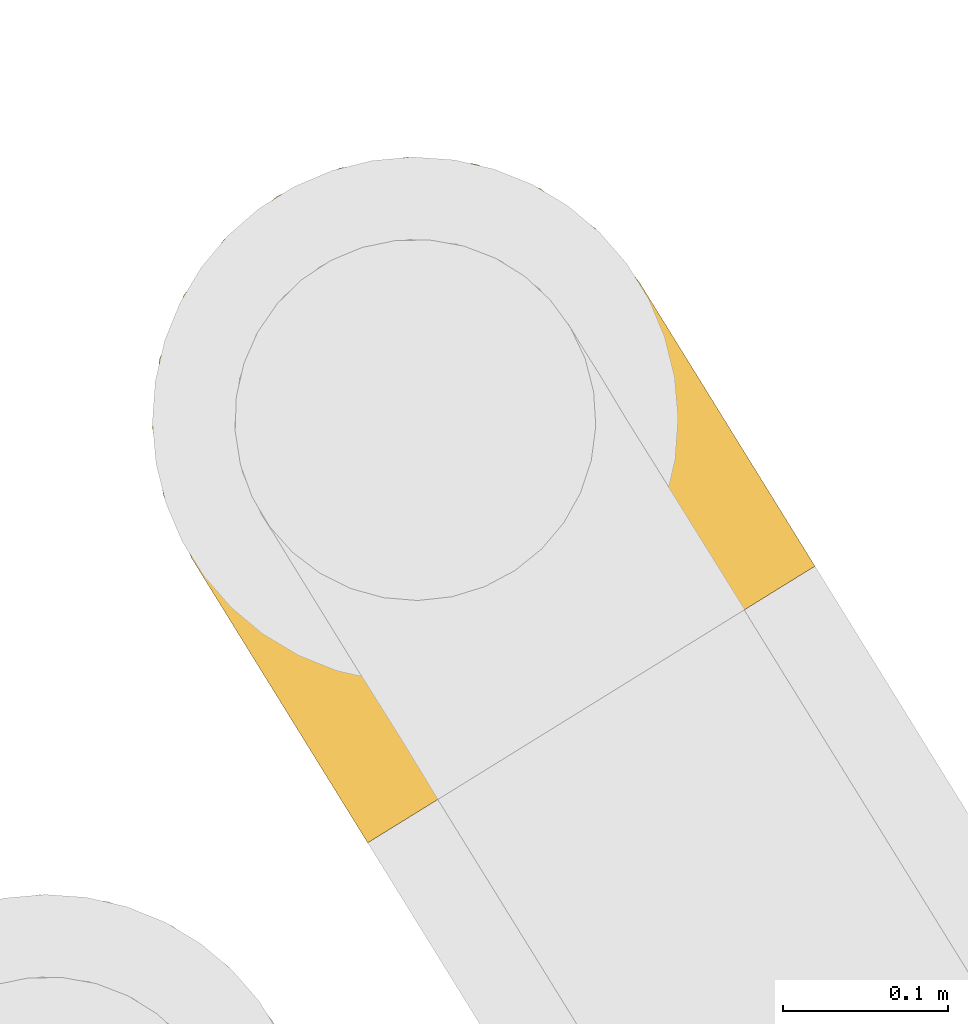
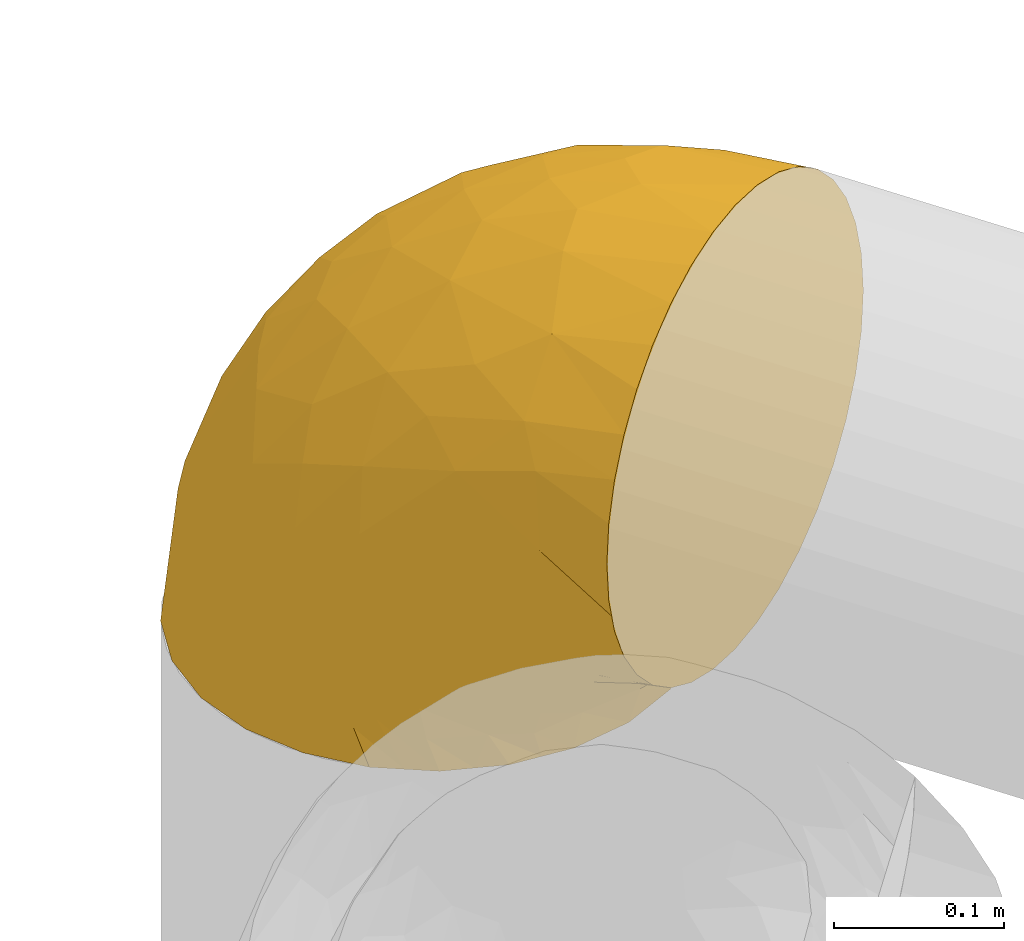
# One storey, part 39 of 91: 1 covering.
"""IFC2X3 building model written with IfcOpenShell, lengths in metres."""

from ifc_helpers import new_model, entity, si_unit, converted_unit, derived_unit, direction, frame, origin, place, context, subcontext, project, spatial, faceted_brep, element, save


model = new_model("IFC2X3")

# Units and contexts
model_context = context("Model", 3, precision=1e-05, world=origin(), true_north=direction((0.894925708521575, 0.446215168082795)))
context_of_model = context(None, 3, precision=1e-05, world=origin(), true_north=direction((0.894925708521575, 0.446215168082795)))
body_context = subcontext(model_context, "Body", "Model", "MODEL_VIEW")
ifc_project = project(units=[si_unit("LENGTHUNIT", "METRE"), si_unit("AREAUNIT", "SQUARE_METRE"), si_unit("VOLUMEUNIT", "CUBIC_METRE"), converted_unit("PLANEANGLEUNIT", "DEGREE", entity("IfcRatioMeasure", 0.0174532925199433), si_unit("PLANEANGLEUNIT", "RADIAN"), dimensions=[0, 0, 0, 0, 0, 0, 0]), si_unit("MASSUNIT", "GRAM", prefix="KILO"), si_unit("TIMEUNIT", "SECOND"), si_unit("FREQUENCYUNIT", "HERTZ"), si_unit("THERMODYNAMICTEMPERATUREUNIT", "DEGREE_CELSIUS"), derived_unit("THERMALTRANSMITTANCEUNIT", [(si_unit("MASSUNIT", "GRAM", prefix="KILO"), 1), (si_unit("THERMODYNAMICTEMPERATUREUNIT", "KELVIN"), -1), (si_unit("TIMEUNIT", "SECOND"), -3)]), derived_unit("VOLUMETRICFLOWRATEUNIT", [(si_unit("LENGTHUNIT", "METRE"), 3), (si_unit("TIMEUNIT", "SECOND"), -1)]), si_unit("ELECTRICCURRENTUNIT", "AMPERE"), si_unit("ELECTRICVOLTAGEUNIT", "VOLT"), si_unit("POWERUNIT", "WATT"), si_unit("FORCEUNIT", "NEWTON", prefix="KILO"), si_unit("ILLUMINANCEUNIT", "LUX"), si_unit("LUMINOUSFLUXUNIT", "LUMEN"), si_unit("LUMINOUSINTENSITYUNIT", "CANDELA"), si_unit("PRESSUREUNIT", "PASCAL")], contexts=[model_context, context_of_model])

# Site, building, storey
site_placement = place(None, frame((218.228324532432, 584.720189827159, 0.0), z_axis=(0.0, 0.0, 1.0), x_axis=(0.446215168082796, 0.894925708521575, 0.0)))
site = spatial("IfcSite", under=ifc_project, at=site_placement, Name="Default", CompositionType="ELEMENT")
building_placement = place(site_placement, origin())
building = spatial("IfcBuilding", under=site, at=building_placement, CompositionType="ELEMENT")
storey_placement = place(building_placement, origin())
storey = spatial("IfcBuildingStorey", under=building, at=storey_placement, Name="0 - Piano Terra", CompositionType="ELEMENT", Elevation=0.0)

# Covering
covering_placement = place(storey_placement, frame((-29.9963255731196, 6.51074202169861, 0.295404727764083)))
element("IfcCovering", 1, at=covering_placement, inside=storey, Name="Isolamento tubazione:Default", ObjectType="Isolamento tubazione:Default", PredefinedType="INSULATION", context=body_context, shape_type="Brep", body=[
    faceted_brep([(0.270854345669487, 0.00287081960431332, 0.232297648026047), (0.26473351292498, 0.00665990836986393, 0.259164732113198), (0.254738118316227, 0.0128475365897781, 0.284373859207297), (0.241175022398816, 0.0212437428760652, 0.307154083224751), (0.224456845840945, 0.0315930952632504, 0.326816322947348), (0.205084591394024, 0.0435854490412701, 0.342769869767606), (0.18364957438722, 0.056854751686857, 0.354524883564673), (0.160808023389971, 0.0709947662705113, 0.361722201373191), (0.137255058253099, 0.0855751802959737, 0.364145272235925), (0.113700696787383, 0.100156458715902, 0.361721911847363), (0.0908565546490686, 0.114298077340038, 0.354523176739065), (0.0694221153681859, 0.127567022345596, 0.342767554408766), (0.0500528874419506, 0.139557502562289, 0.32681594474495), (0.0333347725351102, 0.14990681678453, 0.307153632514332), (0.0197700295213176, 0.158304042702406, 0.284369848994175), (0.00977515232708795, 0.164491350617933, 0.259160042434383), (0.00365552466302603, 0.168279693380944, 0.232296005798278), (0.00159527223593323, 0.169555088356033, 0.204595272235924), (0.0024005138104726, 0.169056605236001, 0.193769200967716), (0.00365577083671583, 0.168279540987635, 0.176892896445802), (0.00671618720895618, 0.166384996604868, 0.163459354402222), (0.00977660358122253, 0.164490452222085, 0.150025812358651), (0.0197719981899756, 0.15830282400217, 0.124816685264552), (0.0333350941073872, 0.149906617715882, 0.102036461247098), (0.0500532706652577, 0.139557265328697, 0.0823742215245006), (0.0694255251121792, 0.127564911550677, 0.0664206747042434), (0.0908605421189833, 0.114295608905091, 0.0546656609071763), (0.113702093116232, 0.100155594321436, 0.0474683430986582), (0.137255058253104, 0.0855751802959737, 0.0450452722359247), (0.160809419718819, 0.0709939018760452, 0.0474686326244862), (0.183653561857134, 0.0568522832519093, 0.0546673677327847), (0.205088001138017, 0.0435833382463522, 0.0664229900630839), (0.224457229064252, 0.0315928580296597, 0.0823745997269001), (0.241175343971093, 0.0212435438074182, 0.102036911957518), (0.254740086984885, 0.0128463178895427, 0.124820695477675), (0.264734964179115, 0.00665900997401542, 0.150030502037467), (0.270854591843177, 0.00287066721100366, 0.176894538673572), (0.272109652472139, 0.00209372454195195, 0.193769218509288), (0.27291484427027, 0.0015952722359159, 0.204595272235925), (0.0887963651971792, 0.221635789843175, 0.0015952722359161), (0.0867133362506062, 0.242356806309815, 0.00159527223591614), (0.0846303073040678, 0.263077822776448, 0.00159527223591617), (0.0879812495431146, 0.283631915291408, 0.00159527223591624), (0.0913321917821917, 0.304186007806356, 0.00159527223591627), (0.099360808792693, 0.322000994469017, 0.00159527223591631), (0.103903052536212, 0.33207994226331, 0.00159527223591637), (0.108445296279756, 0.3421588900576, 0.00159527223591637), (0.134803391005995, 0.37440868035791, 0.00159527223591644), (0.168610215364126, 0.398737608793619, 0.00159527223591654), (0.207561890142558, 0.413487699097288, 0.00159527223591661), (0.24900392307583, 0.4176537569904, 0.00159527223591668), (0.290112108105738, 0.410951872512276, 0.00159527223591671), (0.328084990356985, 0.393838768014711, 0.00159527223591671), (0.360334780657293, 0.367480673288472, 0.00159527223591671), (0.384663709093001, 0.333673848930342, 0.00159527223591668), (0.39941379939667, 0.294722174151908, 0.00159527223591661), (0.403579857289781, 0.253280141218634, 0.00159527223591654), (0.396877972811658, 0.212171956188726, 0.00159527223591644), (0.379764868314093, 0.174199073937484, 0.00159527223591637), (0.372768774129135, 0.165639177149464, 0.00159527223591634), (0.3657726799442, 0.157079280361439, 0.00159527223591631), (0.353406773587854, 0.141949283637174, 0.00159527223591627), (0.336503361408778, 0.129784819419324, 0.00159527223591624), (0.319599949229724, 0.117620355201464, 0.00159527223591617), (0.300124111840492, 0.110245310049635, 0.00159527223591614), (0.280648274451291, 0.102870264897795, 0.0015952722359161), (0.239206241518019, 0.0987042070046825, 0.00159527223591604), (0.198098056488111, 0.105406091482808, 0.001595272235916), (0.160125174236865, 0.122519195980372, 0.001595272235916), (0.127875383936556, 0.148877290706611, 0.001595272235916), (0.103546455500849, 0.18268411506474, 0.00159527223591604), (0.0961714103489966, 0.202159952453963, 0.00159527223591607), (0.35357492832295, 0.358969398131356, 0.0900951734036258), (0.325185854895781, 0.38915555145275, 0.064551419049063), (0.316576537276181, 0.375248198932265, 0.125594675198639), (0.369829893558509, 0.185181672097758, 0.173037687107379), (0.357880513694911, 0.145533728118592, 0.16870319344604), (0.387234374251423, 0.202289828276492, 0.108066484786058), (0.356453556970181, 0.136542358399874, 0.128163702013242), (0.362818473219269, 0.146824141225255, 0.108918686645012), (0.369183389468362, 0.157105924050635, 0.0896736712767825), (0.361981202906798, 0.319892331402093, 0.142688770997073), (0.340579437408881, 0.342644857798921, 0.150576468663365), (0.322765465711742, 0.316852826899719, 0.206213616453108), (0.318761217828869, 0.180919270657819, 0.273081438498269), (0.353107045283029, 0.21008567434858, 0.221076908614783), (0.340388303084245, 0.241651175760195, 0.234774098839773), (0.374509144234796, 0.342119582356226, 0.0599626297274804), (0.399887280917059, 0.277257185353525, 0.0515208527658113), (0.342748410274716, 0.13600027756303, 0.215857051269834), (0.302518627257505, 0.352539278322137, 0.182870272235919), (0.283439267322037, 0.321718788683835, 0.234637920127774), (0.29478664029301, 0.28755889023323, 0.256252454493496), (0.259918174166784, 0.2837231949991, 0.279324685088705), (0.296691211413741, 0.0400032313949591, 0.199505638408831), (0.318972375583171, 0.0826821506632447, 0.218772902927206), (0.389178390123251, 0.27124819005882, 0.11560025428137), (0.385915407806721, 0.230504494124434, 0.136729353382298), (0.399024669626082, 0.236460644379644, 0.0646646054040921), (0.232685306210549, 0.122790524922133, 0.342089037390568), (0.247630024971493, 0.192533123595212, 0.327172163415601), (0.209497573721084, 0.146174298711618, 0.350066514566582), (0.377085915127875, 0.169871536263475, 0.0467670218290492), (0.378438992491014, 0.17205727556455, 0.0239518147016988), (0.379101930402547, 0.173128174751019, 0.0127735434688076), (0.386337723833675, 0.314955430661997, 0.073715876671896), (0.202522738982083, 0.191007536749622, 0.342280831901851), (0.232670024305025, 0.239706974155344, 0.315572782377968), (0.373134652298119, 0.163488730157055, 0.0682203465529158), (0.290826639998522, 0.0679042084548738, 0.273493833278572), (0.31773910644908, 0.266140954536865, 0.250122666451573), (0.282497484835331, 0.238045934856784, 0.292585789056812), (0.305304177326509, 0.219935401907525, 0.281138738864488), (0.297622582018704, 0.114356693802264, 0.288377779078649), (0.262569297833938, 0.0844076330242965, 0.316159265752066), (0.331650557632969, 0.15572516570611, 0.25144713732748), (0.282197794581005, 0.170285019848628, 0.309557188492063), (0.170392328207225, 0.139104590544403, 0.358637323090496), (0.2787985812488, 0.0110997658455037, 0.203335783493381), (0.284682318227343, 0.0206042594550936, 0.202076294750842), (0.31927533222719, 0.0764852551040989, 0.184491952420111), (0.329405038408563, 0.092848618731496, 0.172399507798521), (0.339534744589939, 0.109211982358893, 0.16030706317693), (0.307983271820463, 0.0582442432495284, 0.191998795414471), (0.347994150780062, 0.122877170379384, 0.144235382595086), (0.348257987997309, 0.287034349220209, 0.199279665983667), (0.368646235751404, 0.257189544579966, 0.180304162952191), (0.375478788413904, 0.292048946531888, 0.141814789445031), (0.178441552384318, 0.0901296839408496, 0.0408292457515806), (0.360405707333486, 0.148356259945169, 0.0284627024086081), (0.269853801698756, 0.0314281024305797, 0.128182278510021), (0.350801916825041, 0.138048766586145, 0.0376598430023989), (0.274380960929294, 0.0615737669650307, 0.0979970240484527), (0.240703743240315, 0.0492642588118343, 0.0829606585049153), (0.255268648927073, 0.0644117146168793, 0.0787272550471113), (0.338786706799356, 0.117706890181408, 0.0951853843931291), (0.325937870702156, 0.10145236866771, 0.107494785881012), (0.311471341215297, 0.0981749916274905, 0.080495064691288), (0.29082799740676, 0.0417220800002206, 0.155605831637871), (0.237534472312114, 0.0926506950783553, 0.0312638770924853), (0.27051864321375, 0.0980943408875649, 0.0260038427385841), (0.267778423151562, 0.090655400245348, 0.0467246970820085), (0.275999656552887, 0.0516571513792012, 0.112391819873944), (0.307260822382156, 0.0764596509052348, 0.123613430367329), (0.306981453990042, 0.0659844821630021, 0.148232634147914), (0.252230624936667, 0.0770040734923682, 0.0620352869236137), (0.284669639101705, 0.0746266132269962, 0.0904636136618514), (0.223031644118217, 0.0625228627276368, 0.0646338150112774), (0.2954934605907, 0.0981276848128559, 0.0541637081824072), (0.195485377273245, 0.0994173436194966, 0.0263992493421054), (0.209627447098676, 0.0817906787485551, 0.0462280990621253), (0.328235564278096, 0.0969037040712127, 0.133116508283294), (0.322820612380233, 0.0862900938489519, 0.148702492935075), (0.190355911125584, 0.07266699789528, 0.0508973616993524), (0.287572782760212, 0.0315729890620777, 0.168975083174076), (0.284888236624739, 0.0864246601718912, 0.0698164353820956), (0.306113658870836, 0.110129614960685, 0.0207775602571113), (0.148690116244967, 0.104047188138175, 0.0392240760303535), (0.157061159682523, 0.117569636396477, 0.0233202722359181), (0.303069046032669, 0.106432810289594, 0.0360215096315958), (0.353307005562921, 0.136995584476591, 0.0724405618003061), (0.340445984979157, 0.123158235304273, 0.076257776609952), (0.321073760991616, 0.108795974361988, 0.0687110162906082), (0.332214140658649, 0.120914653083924, 0.0504309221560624), (0.312062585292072, 0.0868495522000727, 0.110544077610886), (0.327152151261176, 0.120731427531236, 0.026189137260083), (0.0588774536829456, 0.173619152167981, 0.0854589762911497), (0.0610592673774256, 0.211286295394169, 0.0913301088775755), (0.0482600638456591, 0.212710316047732, 0.117856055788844), (0.122790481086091, 0.12128365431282, 0.0421616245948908), (0.123151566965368, 0.141874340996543, 0.0292129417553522), (0.0909365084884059, 0.206869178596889, 0.0219615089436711), (0.0842790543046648, 0.234404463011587, 0.0268437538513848), (0.0665269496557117, 0.251116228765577, 0.0982324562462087), (0.0727408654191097, 0.279359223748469, 0.116013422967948), (0.0755782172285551, 0.267083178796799, 0.0770762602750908), (0.0532903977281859, 0.245887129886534, 0.142677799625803), (0.0595675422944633, 0.237551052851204, 0.108617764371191), (0.0580854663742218, 0.260808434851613, 0.17239950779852), (0.0439734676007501, 0.231600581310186, 0.154525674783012), (0.105766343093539, 0.337831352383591, 0.0467670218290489), (0.107119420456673, 0.340017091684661, 0.0239518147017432), (0.107782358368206, 0.341087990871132, 0.0127735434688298), (0.0870938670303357, 0.203363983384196, 0.0387154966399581), (0.0808460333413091, 0.228785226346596, 0.044998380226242), (0.0939461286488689, 0.313307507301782, 0.0284627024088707), (0.102030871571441, 0.124702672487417, 0.0511194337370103), (0.0784866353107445, 0.148396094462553, 0.0644557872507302), (0.101768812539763, 0.144082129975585, 0.0476548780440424), (0.0820042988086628, 0.275196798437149, 0.0492274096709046), (0.0840582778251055, 0.270829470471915, 0.0255805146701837), (0.0715343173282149, 0.177559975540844, 0.0713370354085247), (0.101815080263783, 0.331448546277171, 0.0682203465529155), (0.0747987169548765, 0.221407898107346, 0.0636793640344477), (0.0890024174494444, 0.300115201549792, 0.0376598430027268), (0.00747900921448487, 0.179059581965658, 0.203335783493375), (0.0133627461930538, 0.188564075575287, 0.202076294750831), (0.0253716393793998, 0.207963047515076, 0.19950563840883), (0.0428269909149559, 0.177134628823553, 0.106279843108), (0.063009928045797, 0.261567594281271, 0.128674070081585), (0.0766745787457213, 0.2908369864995, 0.144235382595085), (0.0338653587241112, 0.198793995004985, 0.137474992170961), (0.099853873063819, 0.177990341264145, 0.0296081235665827), (0.0479557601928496, 0.244445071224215, 0.18449195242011), (0.0366636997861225, 0.226204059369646, 0.19199879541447), (0.0169222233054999, 0.189723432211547, 0.175110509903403), (0.0237768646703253, 0.194951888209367, 0.159628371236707), (0.0786491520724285, 0.288808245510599, 0.101389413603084), (0.097863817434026, 0.325065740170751, 0.0896736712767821), (0.0946126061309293, 0.169027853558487, 0.0449504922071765), (0.0776983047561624, 0.192961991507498, 0.0615544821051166), (0.0351726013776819, 0.217924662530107, 0.162967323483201), (0.0862258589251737, 0.301196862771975, 0.0775658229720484), (0.0682151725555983, 0.277171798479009, 0.160307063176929), (0.0851339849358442, 0.30450217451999, 0.128163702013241), (0.0914989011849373, 0.314783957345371, 0.108918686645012), (0.0925457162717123, 0.309788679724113, 0.168703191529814), (0.247803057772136, 0.31664390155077, 0.256252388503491), (0.208964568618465, 0.283566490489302, 0.292585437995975), (0.153624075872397, 0.382864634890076, 0.0858702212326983), (0.191114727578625, 0.393859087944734, 0.115600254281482), (0.191718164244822, 0.40612384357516, 0.0515208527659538), (0.11890014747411, 0.352361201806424, 0.0947832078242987), (0.0803328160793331, 0.197222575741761, 0.316158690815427), (0.0529594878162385, 0.215157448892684, 0.273489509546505), (0.0639501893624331, 0.255069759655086, 0.231435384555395), (0.171034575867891, 0.312205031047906, 0.26138929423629), (0.152453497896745, 0.334299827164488, 0.221076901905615), (0.125057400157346, 0.29127227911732, 0.261435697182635), (0.21839726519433, 0.327638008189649, 0.250122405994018), (0.203985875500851, 0.363895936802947, 0.197311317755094), (0.261547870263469, 0.35474937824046, 0.20621355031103), (0.257883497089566, 0.406862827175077, 0.08969949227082), (0.231502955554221, 0.410805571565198, 0.0737158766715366), (0.284638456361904, 0.379332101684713, 0.151012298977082), (0.232529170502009, 0.360933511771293, 0.204366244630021), (0.246782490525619, 0.39120585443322, 0.142688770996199), (0.285508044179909, 0.401106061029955, 0.090095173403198), (0.135817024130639, 0.340859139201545, 0.190362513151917), (0.0357619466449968, 0.20948385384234, 0.249198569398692), (0.218839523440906, 0.395541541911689, 0.129404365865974), (0.148444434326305, 0.253082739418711, 0.309556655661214), (0.128008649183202, 0.187587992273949, 0.342087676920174), (0.183772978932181, 0.23206324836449, 0.327171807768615), (0.124038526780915, 0.345750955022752, 0.152632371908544), (0.16938442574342, 0.368192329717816, 0.168253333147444), (0.0915068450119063, 0.241951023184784, 0.288376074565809), (0.159278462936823, 0.177257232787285, 0.350067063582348), (0.103857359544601, 0.307471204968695, 0.209361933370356), (0.090453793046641, 0.270413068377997, 0.25349509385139)], [[[0, 1, 2, 3, 4, 5, 6, 7, 8, 9, 10, 11, 12, 13, 14, 15, 16, 17, 18, 19, 20, 21, 22, 23, 24, 25, 26, 27, 28, 29, 30, 31, 32, 33, 34, 35, 36, 37, 38]], [[39, 40, 41, 42, 43, 44, 45, 46, 47, 48, 49, 50, 51, 52, 53, 54, 55, 56, 57, 58, 59, 60, 61, 62, 63, 64, 65, 66, 67, 68, 69, 70, 71]], [[72, 73, 74]], [[73, 53, 52]], [[75, 76, 77]], [[76, 78, 79, 80]], [[81, 82, 83]], [[84, 85, 86]], [[87, 53, 72]], [[88, 56, 55]], [[89, 76, 75]], [[83, 82, 90]], [[91, 83, 90]], [[92, 91, 93]], [[0, 94, 95]], [[96, 97, 98]], [[99, 100, 101]], [[57, 102, 103, 104, 58]], [[55, 54, 105]], [[106, 100, 107]], [[98, 57, 56]], [[77, 80, 108, 102]], [[2, 1, 109]], [[102, 57, 77]], [[110, 111, 112]], [[89, 95, 76]], [[76, 80, 77]], [[91, 92, 83]], [[109, 113, 114]], [[115, 109, 89]], [[111, 107, 100]], [[109, 0, 95]], [[5, 99, 6]], [[105, 96, 88]], [[7, 6, 101]], [[99, 5, 114]], [[99, 114, 116]], [[99, 101, 6]], [[82, 81, 72]], [[4, 114, 5]], [[113, 116, 114]], [[117, 8, 7]], [[117, 101, 106]], [[114, 3, 2]], [[0, 38, 118, 119, 94]], [[95, 120, 121, 122]], [[110, 112, 86]], [[85, 84, 115]], [[85, 75, 97]], [[95, 94, 123, 120]], [[116, 112, 111]], [[76, 95, 122]], [[53, 73, 72]], [[76, 122, 124, 78]], [[99, 116, 100]], [[3, 114, 4]], [[2, 109, 114]], [[81, 105, 87]], [[125, 83, 110]], [[92, 111, 110]], [[0, 109, 1]], [[125, 126, 127]], [[89, 109, 95]], [[97, 75, 77]], [[115, 75, 85]], [[98, 97, 77]], [[97, 96, 126]], [[93, 107, 111]], [[83, 92, 110]], [[111, 92, 93]], [[116, 111, 100]], [[57, 98, 77]], [[98, 56, 88]], [[87, 105, 54]], [[105, 81, 127]], [[84, 112, 116]], [[112, 84, 86]], [[116, 113, 84]], [[115, 84, 113]], [[126, 86, 85]], [[125, 110, 86]], [[97, 126, 85]], [[127, 126, 96]], [[126, 125, 86]], [[83, 125, 81]], [[109, 115, 113]], [[75, 115, 89]], [[105, 127, 96]], [[125, 127, 81]], [[106, 101, 100]], [[7, 101, 117]], [[105, 88, 55]], [[98, 88, 96]], [[72, 74, 82]], [[90, 82, 74]], [[53, 87, 54]], [[81, 87, 72]], [[59, 58, 104, 103, 102, 61, 60]], [[29, 28, 128]], [[61, 129, 62]], [[130, 34, 33]], [[63, 62, 131]], [[102, 129, 61]], [[132, 133, 134]], [[135, 136, 137]], [[130, 138, 34]], [[139, 140, 141]], [[142, 143, 144]], [[134, 145, 146]], [[147, 31, 30]], [[141, 140, 148]], [[149, 68, 67]], [[67, 66, 139]], [[142, 32, 133]], [[134, 133, 147]], [[150, 128, 149]], [[136, 124, 151]], [[151, 122, 152]], [[147, 153, 150]], [[142, 33, 32]], [[30, 153, 147]], [[94, 35, 154]], [[138, 123, 154]], [[119, 118, 38, 37, 36, 94]], [[149, 67, 139]], [[145, 155, 146]], [[94, 36, 35]], [[156, 65, 64]], [[138, 130, 144]], [[157, 128, 28]], [[150, 153, 128]], [[154, 34, 138]], [[138, 120, 123]], [[149, 128, 158]], [[31, 133, 32]], [[31, 147, 133]], [[30, 29, 153]], [[145, 147, 150]], [[159, 148, 140]], [[144, 120, 138]], [[160, 131, 80]], [[161, 135, 162]], [[108, 131, 129]], [[80, 131, 108]], [[159, 156, 163]], [[150, 139, 145]], [[155, 141, 148]], [[142, 132, 143]], [[152, 144, 143]], [[108, 129, 102]], [[131, 62, 129]], [[29, 128, 153]], [[158, 128, 157]], [[149, 158, 68]], [[139, 150, 149]], [[164, 136, 151]], [[144, 152, 121]], [[164, 155, 137]], [[135, 78, 136]], [[145, 134, 147]], [[132, 134, 146]], [[143, 132, 146]], [[133, 132, 142]], [[33, 142, 130]], [[144, 130, 142]], [[141, 145, 139]], [[137, 155, 148]], [[137, 162, 135]], [[137, 136, 164]], [[162, 137, 148]], [[159, 162, 148]], [[160, 79, 161]], [[79, 78, 135]], [[161, 162, 163]], [[160, 161, 163]], [[79, 135, 161]], [[160, 163, 165]], [[79, 160, 80]], [[145, 141, 155]], [[140, 139, 66]], [[66, 65, 140]], [[159, 163, 162]], [[140, 65, 159]], [[63, 165, 64]], [[156, 159, 65]], [[63, 131, 165]], [[160, 165, 131]], [[64, 165, 156]], [[163, 156, 165]], [[121, 152, 122]], [[121, 120, 144]], [[151, 152, 143]], [[164, 151, 143]], [[143, 146, 164]], [[124, 136, 78]], [[124, 122, 151]], [[164, 146, 155]], [[94, 154, 123]], [[34, 154, 35]], [[24, 166, 25]], [[167, 166, 168]], [[158, 169, 170]], [[71, 171, 172]], [[158, 157, 169]], [[173, 174, 175]], [[168, 176, 177]], [[170, 68, 158]], [[178, 176, 179]], [[71, 70, 171]], [[45, 44, 43, 180, 181, 182, 46]], [[171, 183, 184]], [[43, 42, 185]], [[186, 187, 188]], [[172, 39, 71]], [[189, 190, 172]], [[191, 188, 187]], [[185, 192, 180]], [[191, 187, 166]], [[184, 183, 193]], [[27, 26, 186]], [[194, 42, 41]], [[18, 17, 195, 196, 197, 19]], [[187, 26, 25]], [[166, 187, 25]], [[24, 198, 166]], [[199, 200, 174]], [[23, 22, 201]], [[23, 198, 24]], [[186, 169, 27]], [[70, 69, 202]], [[203, 178, 179]], [[201, 168, 198]], [[204, 205, 197]], [[204, 206, 205]], [[175, 184, 193]], [[205, 20, 197]], [[174, 207, 175]], [[194, 208, 192]], [[68, 170, 69]], [[183, 209, 210]], [[166, 198, 168]], [[169, 28, 27]], [[167, 210, 191]], [[201, 198, 23]], [[203, 179, 211]], [[21, 206, 22]], [[185, 180, 43]], [[172, 190, 40]], [[194, 189, 212]], [[187, 186, 26]], [[169, 186, 188]], [[169, 188, 170]], [[169, 157, 28]], [[209, 170, 188]], [[69, 170, 202]], [[42, 194, 185]], [[192, 185, 194]], [[211, 204, 203]], [[201, 22, 206]], [[177, 176, 199]], [[193, 167, 173]], [[199, 176, 213]], [[213, 176, 178]], [[179, 168, 201]], [[200, 214, 174]], [[177, 199, 173]], [[199, 213, 200]], [[168, 179, 176]], [[179, 201, 211]], [[201, 206, 211]], [[204, 211, 206]], [[212, 175, 207]], [[199, 174, 173]], [[207, 174, 214]], [[172, 175, 189]], [[214, 215, 207]], [[208, 212, 215]], [[207, 215, 212]], [[194, 212, 208]], [[212, 189, 175]], [[167, 191, 166]], [[191, 210, 209]], [[20, 205, 21]], [[20, 19, 197]], [[206, 21, 205]], [[184, 172, 171]], [[70, 202, 171]], [[183, 171, 202]], [[175, 172, 184]], [[190, 41, 40]], [[190, 194, 41]], [[39, 172, 40]], [[194, 190, 189]], [[209, 183, 202]], [[193, 183, 210]], [[167, 193, 210]], [[175, 193, 173]], [[170, 209, 202]], [[191, 209, 188]], [[173, 167, 177]], [[168, 177, 167]], [[216, 208, 215, 214]], [[93, 217, 218]], [[219, 220, 221]], [[222, 46, 182, 181, 180]], [[222, 208, 216]], [[223, 224, 14]], [[203, 225, 216]], [[226, 227, 228]], [[14, 224, 15]], [[216, 214, 200, 213]], [[229, 230, 226]], [[217, 231, 229]], [[232, 50, 233]], [[90, 74, 234]], [[73, 52, 51]], [[223, 12, 11]], [[49, 48, 221]], [[235, 236, 230]], [[49, 233, 50]], [[74, 73, 237]], [[227, 238, 228]], [[236, 231, 234]], [[16, 15, 239]], [[234, 74, 237]], [[233, 240, 236]], [[231, 91, 90]], [[225, 203, 204, 197]], [[241, 242, 243]], [[222, 180, 192, 208]], [[107, 93, 218]], [[239, 197, 16]], [[16, 197, 196, 195, 17]], [[232, 51, 50]], [[244, 222, 216]], [[47, 222, 219]], [[245, 230, 240]], [[246, 224, 223]], [[243, 106, 107]], [[48, 47, 219]], [[14, 13, 223]], [[73, 51, 237]], [[11, 242, 223]], [[12, 223, 13]], [[247, 243, 242]], [[11, 10, 242]], [[243, 218, 241]], [[106, 243, 247]], [[91, 217, 93]], [[247, 9, 117]], [[46, 222, 47]], [[8, 117, 9]], [[248, 216, 225]], [[219, 222, 244]], [[242, 241, 223]], [[228, 248, 249]], [[244, 245, 219]], [[10, 9, 247]], [[244, 216, 248]], [[245, 244, 238]], [[216, 213, 178, 203]], [[241, 246, 223]], [[249, 224, 246]], [[239, 224, 225]], [[249, 225, 224]], [[238, 244, 248]], [[231, 217, 91]], [[218, 217, 229]], [[218, 229, 226]], [[107, 218, 243]], [[249, 246, 228]], [[248, 225, 249]], [[233, 49, 221]], [[232, 233, 236]], [[224, 239, 15]], [[197, 239, 225]], [[246, 241, 228]], [[231, 235, 229]], [[228, 241, 226]], [[218, 226, 241]], [[230, 236, 240]], [[227, 226, 230]], [[228, 238, 248]], [[245, 238, 227]], [[230, 245, 227]], [[219, 245, 220]], [[247, 242, 10]], [[106, 247, 117]], [[219, 221, 48]], [[233, 221, 220]], [[236, 234, 237]], [[90, 234, 231]], [[233, 220, 240]], [[240, 220, 245]], [[236, 237, 232]], [[232, 237, 51]], [[236, 235, 231]], [[230, 229, 235]]]),
])

save(model, "model.ifc")
